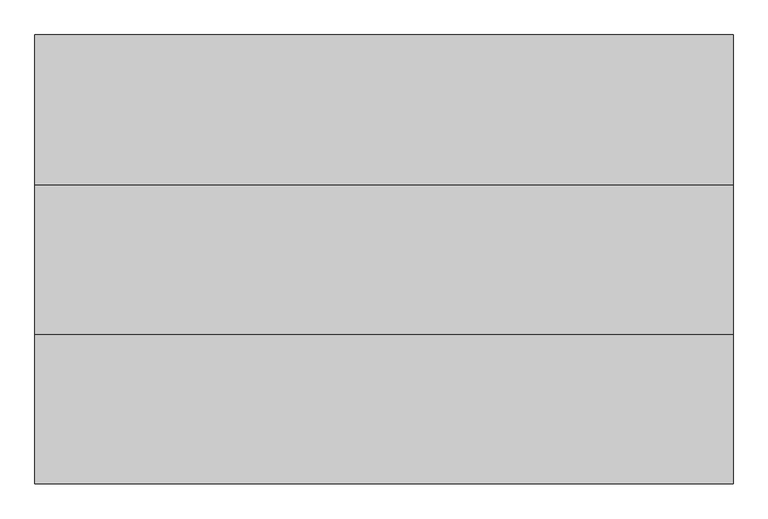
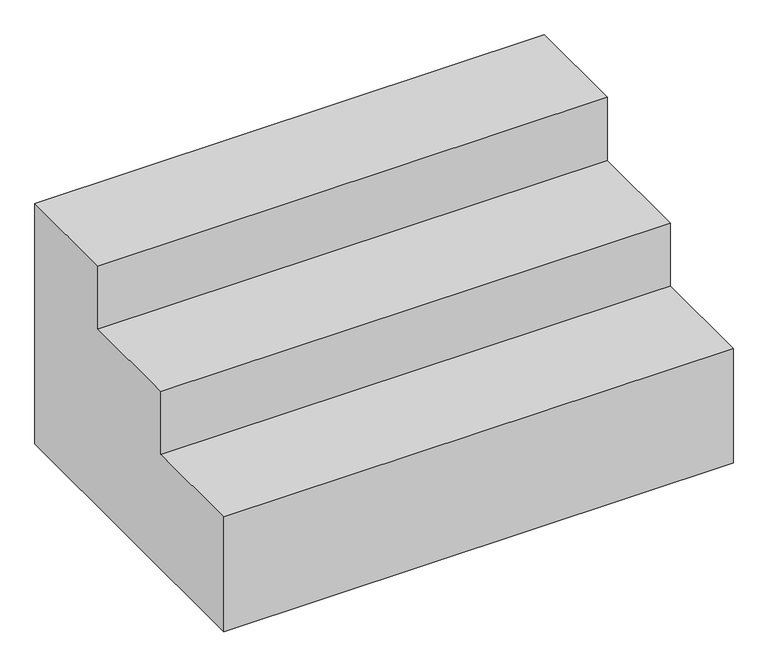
"""IFC4 building model written with IfcOpenShell, lengths in millimetres: proxy geometry, R_Schodiště na střechu : R_Schodiště na střechu."""

from ifc_helpers import new_model, si_unit, frame, origin, place, context, project, spatial, polyline, outline, extrude, source, transform, mapped, element, save


def generic_models_2aaaab1c(model_context):
    return source(origin(), model_context, "Body", "SweptSolid", [
        extrude(outline(polyline([(0.0, 550.0), (0.0, -150.0), (-900.0, -150.0), (-900.0, 183.333334), (-600.0, 183.333334), (-600.0, 366.666667), (-300.0, 366.666667), (-300.0, 550.0), (0.0, 550.0)])), frame((0.0, 0.0, 0.0), z_axis=(1.0, 0.0, 0.0), x_axis=(0.0, 1.0, 0.0)), (0.0, 0.0, 1.0), 1400.0),
    ])


if __name__ == "__main__":
    model = new_model("IFC4")
    model_context = context("Model", 3, world=origin())
    ifc_project = project(units=[si_unit("LENGTHUNIT", "METRE", prefix="MILLI")], contexts=[model_context])
    site = spatial("IfcSite", under=ifc_project)
    building = spatial("IfcBuilding", under=site)
    placement = place(None, origin())
    generic_models_shape = generic_models_2aaaab1c(model_context)
    element("IfcBuildingElementProxy", 1, Name="R_Schodiště na střechu : R_Schodiště na střechu", ObjectType="R_Schodiště na střechu : R_Schodiště na střechu", at=placement, inside=building, context=model_context, shape_type="MappedRepresentation", body=[
        mapped(generic_models_shape, transform((0.0, 0.0, 0.0), x_axis=(1.0, 0.0, 0.0), y_axis=(0.0, 1.0, 0.0), z_axis=(0.0, 0.0, 1.0))),
    ])
    save(model, "model.ifc")
